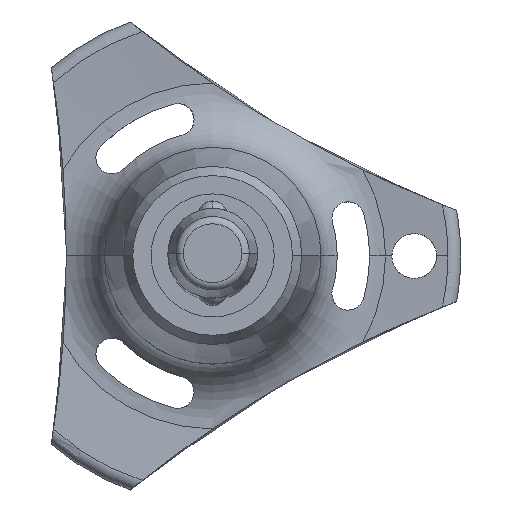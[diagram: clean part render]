
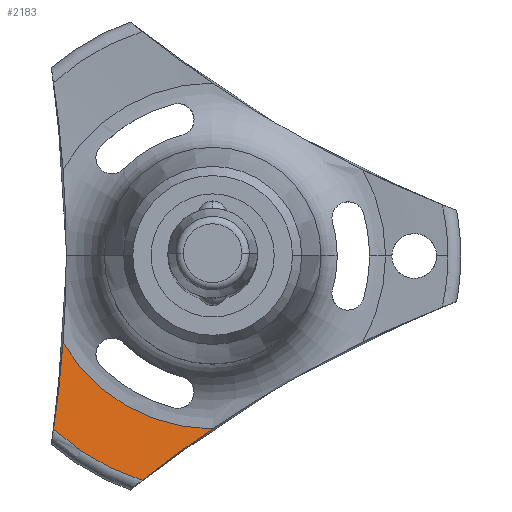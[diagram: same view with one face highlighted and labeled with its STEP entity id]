
A CAD part, top view. The second image highlights one B-rep face of the part: STEP entity #2183.
In plain terms, the highlighted conical face has half-angle 85.408 degrees and reference radius 15.736 mm.
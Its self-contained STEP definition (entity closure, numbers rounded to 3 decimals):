
#97 = EDGE_CURVE ( 'NONE', #2187, #2294, #2600, .T. ) ;
#234 = AXIS2_PLACEMENT_3D ( 'NONE', #2275, #389, #405 ) ;
#268 = CARTESIAN_POINT ( 'NONE',  ( 0., 0., -101.453 ) ) ;
#360 = CARTESIAN_POINT ( 'NONE',  ( -10.363, -9.669, -101.581 ) ) ;
#374 = CARTESIAN_POINT ( 'NONE',  ( 0., 0., -101.453 ) ) ;
#389 = DIRECTION ( 'NONE',  ( 0., 0., -1. ) ) ;
#405 = DIRECTION ( 'NONE',  ( -1., 0., 0. ) ) ;
#417 = AXIS2_PLACEMENT_3D ( 'NONE', #374, #1246, #1637 ) ;
#439 = EDGE_CURVE ( 'NONE', #2485, #2294, #1692, .T. ) ;
#445 = DIRECTION ( 'NONE',  ( -1., 0., 0. ) ) ;
#465 = AXIS2_PLACEMENT_3D ( 'NONE', #268, #1488, #445 ) ;
#798 = FACE_OUTER_BOUND ( 'NONE', #2583, .T. ) ;
#904 = CARTESIAN_POINT ( 'NONE',  ( -0.019, -11.57, -101.787 ) ) ;
#943 = CARTESIAN_POINT ( 'NONE',  ( -10.644, -11.59, -101.453 ) ) ;
#1098 = CARTESIAN_POINT ( 'NONE',  ( -1.625, -12.66, -101.699 ) ) ;
#1127 = CARTESIAN_POINT ( 'NONE',  ( -10.644, -11.59, -101.453 ) ) ;
#1195 = CARTESIAN_POINT ( 'NONE',  ( -10.011, -5.801, -101.787 ) ) ;
#1246 = DIRECTION ( 'NONE',  ( 0., 0., 1. ) ) ;
#1337 = ORIENTED_EDGE ( 'NONE', *, *, #439, .F. ) ;
#1355 = EDGE_CURVE ( 'NONE', #2245, #2485, #1736, .T. ) ;
#1360 = CARTESIAN_POINT ( 'NONE',  ( -3.192, -13.809, -101.581 ) ) ;
#1419 = CARTESIAN_POINT ( 'NONE',  ( -10.011, -5.801, -101.787 ) ) ;
#1488 = DIRECTION ( 'NONE',  ( 0., 0., -1. ) ) ;
#1597 = CONICAL_SURFACE ( 'NONE', #417, 15.736, 1.491 ) ;
#1637 = DIRECTION ( 'NONE',  ( 1., 0., 0. ) ) ;
#1654 = CARTESIAN_POINT ( 'NONE',  ( -4.715, -15.013, -101.453 ) ) ;
#1692 = B_SPLINE_CURVE_WITH_KNOTS ( 'NONE', 3,
 ( #943, #360, #2631, #1419 ),
 .UNSPECIFIED., .F., .F.,
 ( 4, 4 ),
 ( 0., 0.006 ),
 .UNSPECIFIED. ) ;
#1736 = CIRCLE ( 'NONE', #465, 15.736 ) ;
#1987 = ORIENTED_EDGE ( 'NONE', *, *, #1355, .F. ) ;
#2160 = ORIENTED_EDGE ( 'NONE', *, *, #97, .T. ) ;
#2183 = ADVANCED_FACE ( 'NONE', ( #798 ), #1597, .F. ) ;
#2187 = VERTEX_POINT ( 'NONE', #2320 ) ;
#2197 = ORIENTED_EDGE ( 'NONE', *, *, #2469, .F. ) ;
#2245 = VERTEX_POINT ( 'NONE', #1654 ) ;
#2275 = CARTESIAN_POINT ( 'NONE',  ( 0., 0., -101.787 ) ) ;
#2294 = VERTEX_POINT ( 'NONE', #1195 ) ;
#2320 = CARTESIAN_POINT ( 'NONE',  ( -0.019, -11.57, -101.787 ) ) ;
#2378 = B_SPLINE_CURVE_WITH_KNOTS ( 'NONE', 3,
 ( #904, #1098, #1360, #2584 ),
 .UNSPECIFIED., .F., .F.,
 ( 4, 4 ),
 ( 0.017, 0.023 ),
 .UNSPECIFIED. ) ;
#2469 = EDGE_CURVE ( 'NONE', #2187, #2245, #2378, .T. ) ;
#2485 = VERTEX_POINT ( 'NONE', #1127 ) ;
#2583 = EDGE_LOOP ( 'NONE', ( #2197, #2160, #1337, #1987 ) ) ;
#2584 = CARTESIAN_POINT ( 'NONE',  ( -4.715, -15.013, -101.453 ) ) ;
#2600 = CIRCLE ( 'NONE', #234, 11.57 ) ;
#2631 = CARTESIAN_POINT ( 'NONE',  ( -10.152, -7.74, -101.699 ) ) ;
